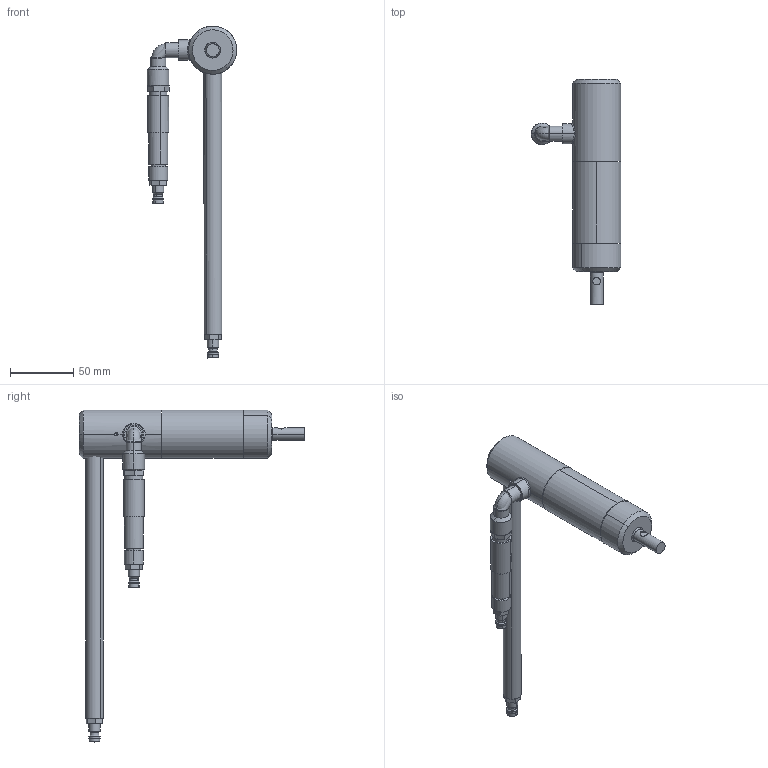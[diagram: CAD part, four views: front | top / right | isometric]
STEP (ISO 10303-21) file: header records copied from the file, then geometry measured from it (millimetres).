
FILE_DESCRIPTION (( 'STEP AP214' ), '1' );
FILE_NAME ('PLR11GA.STEP', '2019-03-11T15:04:42', ( '' ), ( '' ), 'SwSTEP 2.0', 'SolidWorks 2018', '' );
FILE_SCHEMA (( 'AUTOMOTIVE_DESIGN' ));
Length unit declared in the file: millimetre
Products named in the file (13): PLR11GA; Halterohr GA; Rändelschraube GA; Schnellkupplung; Ventil; Rändelschraube; Winkel; Kopie von Distanzring PLR 11^PLR11GA; Kopie von Verschluss PLR 11^PLR11GA; Kopie von Deckel PLR 11^PLR11GA; Kopie von Stator PLR 11^PLR11GA; Kopie von Rotor PLR 11^PLR11GA; Kopie von Motorblock PLR 11^PLR11GA
Assembly tree (13 placements, depth 3):
  PLR11GA
    Kopie von Motorblock PLR 11^PLR11GA
    Kopie von Rotor PLR 11^PLR11GA
    Kopie von Stator PLR 11^PLR11GA
    Kopie von Deckel PLR 11^PLR11GA
    Kopie von Verschluss PLR 11^PLR11GA
    Kopie von Distanzring PLR 11^PLR11GA
    Winkel
    Rändelschraube GA
      Rändelschraube
      Ventil
      Schnellkupplung
    Halterohr GA
    Schnellkupplung
Bounding box: 70.71 x 177.5 x 261.61 mm (x, y, z)
Volume: 200108.1 mm3; surface area: 84112.5 mm2
Topology: 12 solids, 12 shells, 263 faces, 548 edges, 346 vertices
Faces by surface type: cylinder 138, plane 87, cone 26, torus 10, bspline 2
Entity records: 7794 total; most frequent: CARTESIAN_POINT 1823, DIRECTION 1212, ORIENTED_EDGE 952, AXIS2_PLACEMENT_3D 515, EDGE_CURVE 476, VERTEX_POINT 304, EDGE_LOOP 284, CIRCLE 268
